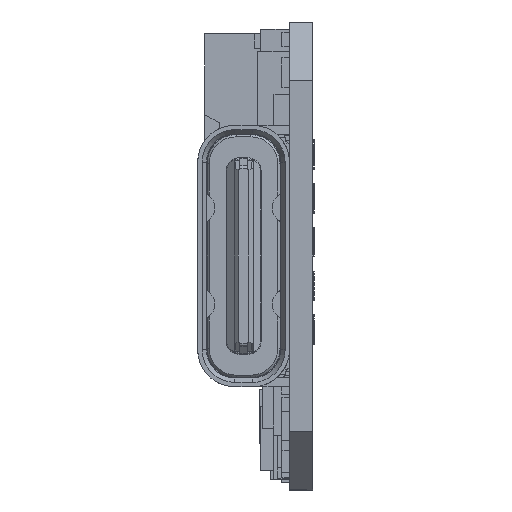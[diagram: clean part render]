
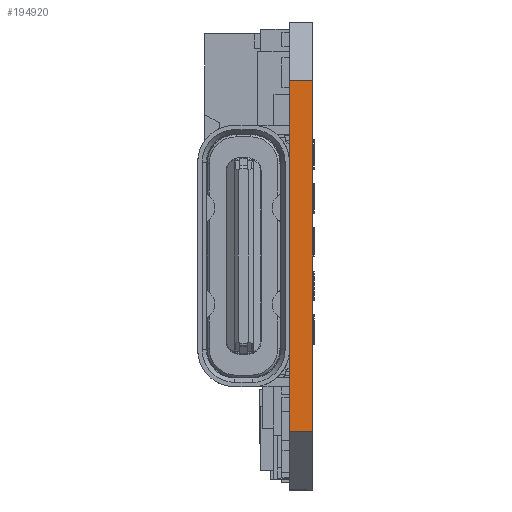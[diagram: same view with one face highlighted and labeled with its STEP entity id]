
A CAD part, left-side view. The second image highlights one B-rep face of the part: STEP entity #194920.
In plain terms, the highlighted planar face has unit normal (-1, 0, 0).
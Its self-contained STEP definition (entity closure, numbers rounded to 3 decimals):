
#1489 = CARTESIAN_POINT ( 'NONE',  ( -36., 0., -6. ) ) ;
#7870 = DIRECTION ( 'NONE',  ( 0., 0., 1. ) ) ;
#12773 = VERTEX_POINT ( 'NONE', #124955 ) ;
#36105 = ORIENTED_EDGE ( 'NONE', *, *, #196803, .T. ) ;
#36799 = CARTESIAN_POINT ( 'NONE',  ( -36., 0.8, -8. ) ) ;
#37771 = LINE ( 'NONE', #36799, #128565 ) ;
#39441 = DIRECTION ( 'NONE',  ( 0., -1., 0. ) ) ;
#40486 = CARTESIAN_POINT ( 'NONE',  ( -36., 0.8, 6. ) ) ;
#54289 = DIRECTION ( 'NONE',  ( 1., 0., 0. ) ) ;
#55989 = ORIENTED_EDGE ( 'NONE', *, *, #79837, .T. ) ;
#67525 = VERTEX_POINT ( 'NONE', #1489 ) ;
#68842 = VERTEX_POINT ( 'NONE', #172143 ) ;
#70979 = ORIENTED_EDGE ( 'NONE', *, *, #96956, .F. ) ;
#71973 = ORIENTED_EDGE ( 'NONE', *, *, #90956, .T. ) ;
#75592 = CARTESIAN_POINT ( 'NONE',  ( -36., 0., -8. ) ) ;
#79837 = EDGE_CURVE ( 'NONE', #67525, #97716, #101296, .T. ) ;
#90956 = EDGE_CURVE ( 'NONE', #97716, #68842, #206285, .T. ) ;
#96956 = EDGE_CURVE ( 'NONE', #12773, #68842, #37771, .T. ) ;
#97716 = VERTEX_POINT ( 'NONE', #175712 ) ;
#101296 = LINE ( 'NONE', #75592, #136721 ) ;
#101526 = DIRECTION ( 'NONE',  ( 0., 0., -1. ) ) ;
#117068 = PLANE ( 'NONE',  #187934 ) ;
#117778 = CARTESIAN_POINT ( 'NONE',  ( -36., 0.8, -8. ) ) ;
#124955 = CARTESIAN_POINT ( 'NONE',  ( -36., 0.8, -6. ) ) ;
#128565 = VECTOR ( 'NONE', #7870, 1000. ) ;
#131250 = FACE_OUTER_BOUND ( 'NONE', #135568, .T. ) ;
#133937 = CARTESIAN_POINT ( 'NONE',  ( -36., 0.8, -6. ) ) ;
#135568 = EDGE_LOOP ( 'NONE', ( #70979, #36105, #55989, #71973 ) ) ;
#136721 = VECTOR ( 'NONE', #186233, 1000. ) ;
#152672 = LINE ( 'NONE', #133937, #167838 ) ;
#163343 = VECTOR ( 'NONE', #203361, 1000. ) ;
#167838 = VECTOR ( 'NONE', #39441, 1000. ) ;
#172143 = CARTESIAN_POINT ( 'NONE',  ( -36., 0.8, 6. ) ) ;
#175712 = CARTESIAN_POINT ( 'NONE',  ( -36., 0., 6. ) ) ;
#186233 = DIRECTION ( 'NONE',  ( 0., 0., 1. ) ) ;
#187934 = AXIS2_PLACEMENT_3D ( 'NONE', #117778, #54289, #101526 ) ;
#194920 = ADVANCED_FACE ( 'NONE', ( #131250 ), #117068, .F. ) ;
#196803 = EDGE_CURVE ( 'NONE', #12773, #67525, #152672, .T. ) ;
#203361 = DIRECTION ( 'NONE',  ( 0., 1., 0. ) ) ;
#206285 = LINE ( 'NONE', #40486, #163343 ) ;
